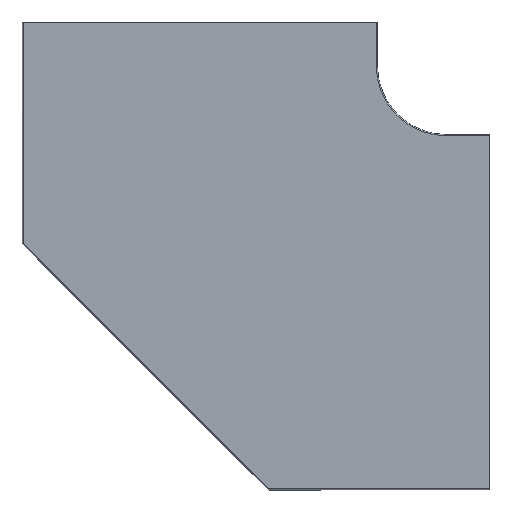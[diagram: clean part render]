
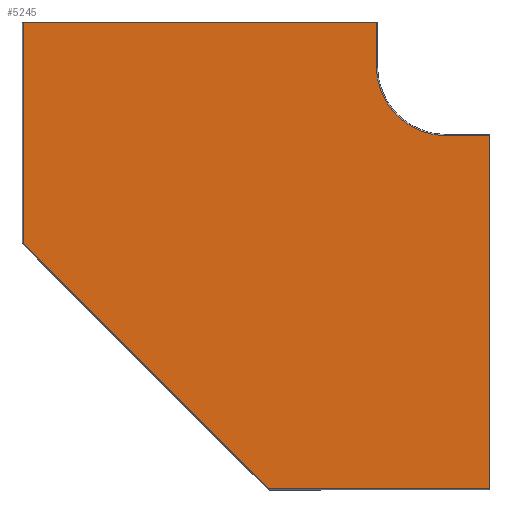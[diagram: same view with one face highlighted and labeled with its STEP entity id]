
A CAD part, front view. The second image highlights one B-rep face of the part: STEP entity #5245.
In plain terms, the highlighted planar face has unit normal (0, -1, 0).
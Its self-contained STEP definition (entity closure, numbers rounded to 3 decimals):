
#338 = ORIENTED_EDGE ( 'NONE', *, *, #3095, .F. ) ;
#740 = ORIENTED_EDGE ( 'NONE', *, *, #2382, .F. ) ;
#1037 = CARTESIAN_POINT ( 'NONE',  ( 348., 0., -661. ) ) ;
#1162 = DIRECTION ( 'NONE',  ( 0., 0., -1. ) ) ;
#1202 = CARTESIAN_POINT ( 'NONE',  ( 500., 0., 0. ) ) ;
#1471 = ORIENTED_EDGE ( 'NONE', *, *, #5180, .F. ) ;
#1481 = VERTEX_POINT ( 'NONE', #6501 ) ;
#1501 = VERTEX_POINT ( 'NONE', #8030 ) ;
#1569 = VERTEX_POINT ( 'NONE', #5913 ) ;
#1654 = VERTEX_POINT ( 'NONE', #6984 ) ;
#1673 = EDGE_CURVE ( 'NONE', #3414, #9048, #10297, .T. ) ;
#2063 = DIRECTION ( 'NONE',  ( 0., 0., -1. ) ) ;
#2203 = CARTESIAN_POINT ( 'NONE',  ( 348., 0., -661. ) ) ;
#2262 = VECTOR ( 'NONE', #2063, 1000. ) ;
#2382 = EDGE_CURVE ( 'NONE', #1569, #3490, #3482, .T. ) ;
#2761 = LINE ( 'NONE', #3633, #3444 ) ;
#2763 = DIRECTION ( 'NONE',  ( 0., 0., -1. ) ) ;
#2807 = EDGE_CURVE ( 'NONE', #5485, #3414, #2761, .T. ) ;
#2934 = VECTOR ( 'NONE', #9174, 1000. ) ;
#3095 = EDGE_CURVE ( 'NONE', #1481, #1501, #6790, .T. ) ;
#3414 = VERTEX_POINT ( 'NONE', #7116 ) ;
#3444 = VECTOR ( 'NONE', #6857, 1000. ) ;
#3482 = LINE ( 'NONE', #1037, #7235 ) ;
#3490 = VERTEX_POINT ( 'NONE', #2203 ) ;
#3538 = DIRECTION ( 'NONE',  ( -1., 0., 0. ) ) ;
#3633 = CARTESIAN_POINT ( 'NONE',  ( 0., 0., 0. ) ) ;
#3862 = DIRECTION ( 'NONE',  ( 1., 0., 0. ) ) ;
#4098 = ORIENTED_EDGE ( 'NONE', *, *, #2807, .F. ) ;
#4109 = CARTESIAN_POINT ( 'NONE',  ( 0., 0., -313. ) ) ;
#4217 = EDGE_CURVE ( 'NONE', #1654, #1481, #8795, .T. ) ;
#4272 = LINE ( 'NONE', #4109, #4844 ) ;
#4309 = LINE ( 'NONE', #5167, #6873 ) ;
#4321 = CARTESIAN_POINT ( 'NONE',  ( 599., 0., -161. ) ) ;
#4844 = VECTOR ( 'NONE', #9237, 1000. ) ;
#5167 = CARTESIAN_POINT ( 'NONE',  ( 661., 0., -161. ) ) ;
#5180 = EDGE_CURVE ( 'NONE', #3490, #5485, #4272, .T. ) ;
#5245 = ADVANCED_FACE ( 'NONE', ( #9719 ), #7224, .T. ) ;
#5485 = VERTEX_POINT ( 'NONE', #6086 ) ;
#5497 = DIRECTION ( 'NONE',  ( 0., -1., 0. ) ) ;
#5913 = CARTESIAN_POINT ( 'NONE',  ( 661., 0., -661. ) ) ;
#5987 = EDGE_CURVE ( 'NONE', #9048, #1654, #6282, .T. ) ;
#6028 = AXIS2_PLACEMENT_3D ( 'NONE', #8642, #6155, #2763 ) ;
#6086 = CARTESIAN_POINT ( 'NONE',  ( 0., 0., -313. ) ) ;
#6121 = EDGE_LOOP ( 'NONE', ( #4098, #1471, #740, #8431, #338, #10090, #10596, #9596 ) ) ;
#6155 = DIRECTION ( 'NONE',  ( 0., -1., 0. ) ) ;
#6282 = LINE ( 'NONE', #1202, #2262 ) ;
#6361 = DIRECTION ( 'NONE',  ( 0., 0., -1. ) ) ;
#6501 = CARTESIAN_POINT ( 'NONE',  ( 599., 0., -161. ) ) ;
#6790 = LINE ( 'NONE', #4321, #2934 ) ;
#6857 = DIRECTION ( 'NONE',  ( 0., 0., 1. ) ) ;
#6873 = VECTOR ( 'NONE', #1162, 1000. ) ;
#6984 = CARTESIAN_POINT ( 'NONE',  ( 500., 0., -62. ) ) ;
#7065 = CARTESIAN_POINT ( 'NONE',  ( 599., 0., -62. ) ) ;
#7116 = CARTESIAN_POINT ( 'NONE',  ( 0., 0., 0. ) ) ;
#7224 = PLANE ( 'NONE',  #7587 ) ;
#7235 = VECTOR ( 'NONE', #3538, 1000. ) ;
#7587 = AXIS2_PLACEMENT_3D ( 'NONE', #7065, #5497, #6361 ) ;
#7850 = CARTESIAN_POINT ( 'NONE',  ( 0., 0., 0. ) ) ;
#8030 = CARTESIAN_POINT ( 'NONE',  ( 661., 0., -161. ) ) ;
#8431 = ORIENTED_EDGE ( 'NONE', *, *, #10716, .F. ) ;
#8642 = CARTESIAN_POINT ( 'NONE',  ( 599., 0., -62. ) ) ;
#8795 = CIRCLE ( 'NONE', #6028, 99. ) ;
#9048 = VERTEX_POINT ( 'NONE', #9945 ) ;
#9174 = DIRECTION ( 'NONE',  ( 1., 0., 0. ) ) ;
#9237 = DIRECTION ( 'NONE',  ( -0.707, 0., 0.707 ) ) ;
#9596 = ORIENTED_EDGE ( 'NONE', *, *, #1673, .F. ) ;
#9719 = FACE_OUTER_BOUND ( 'NONE', #6121, .T. ) ;
#9945 = CARTESIAN_POINT ( 'NONE',  ( 500., 0., 0. ) ) ;
#9951 = VECTOR ( 'NONE', #3862, 1000. ) ;
#10090 = ORIENTED_EDGE ( 'NONE', *, *, #4217, .F. ) ;
#10297 = LINE ( 'NONE', #7850, #9951 ) ;
#10596 = ORIENTED_EDGE ( 'NONE', *, *, #5987, .F. ) ;
#10716 = EDGE_CURVE ( 'NONE', #1501, #1569, #4309, .T. ) ;
